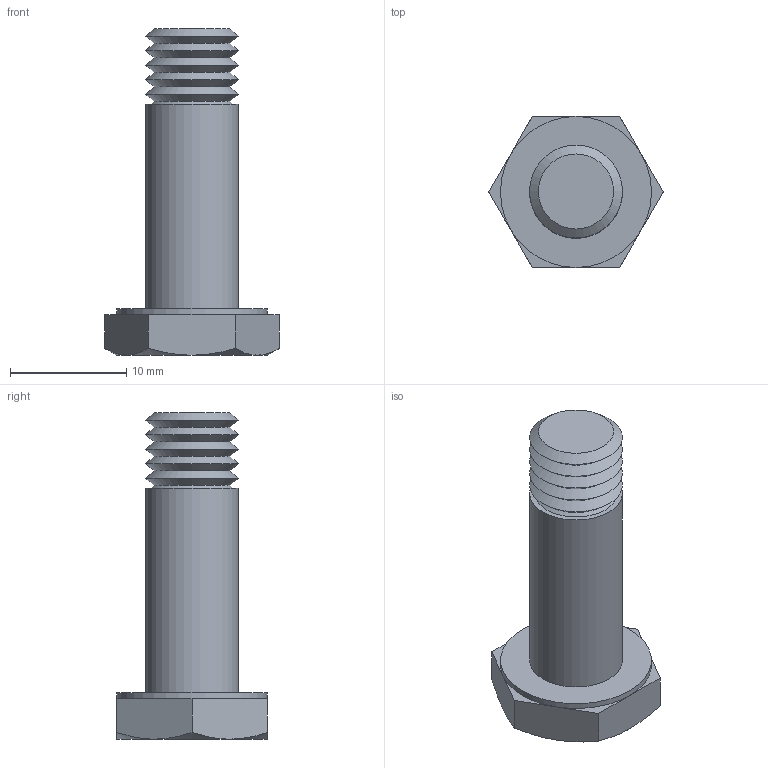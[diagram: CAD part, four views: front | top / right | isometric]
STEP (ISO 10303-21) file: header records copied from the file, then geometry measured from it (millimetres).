
FILE_DESCRIPTION((''),'2;1');
FILE_NAME('C:\Andys Backup Data\WEBSITE\DREAMWEAVER\MiniTec\Products\Linear System LR\CAD\Step\28.0240 SLIDE LR6 CONCENTRIC BUSHING.stp','2016-10-17T11:01:06',('amoles'),(''),'Autodesk Inventor 2012','Autodesk Inventor 2012','');
FILE_SCHEMA(('AUTOMOTIVE_DESIGN { 1 0 10303 214 1 1 1 1 }'));
Length unit declared in the file: millimetre
Products named in the file (1): 28.0240 SLIDE LR6 CONCENTRIC BUSHING
Bounding box: 15.01 x 13 x 28.1 mm (x, y, z)
Volume: 1727.7 mm3; surface area: 1132.9 mm2
Topology: 1 solids, 1 shells, 35 faces, 72 edges, 41 vertices
Faces by surface type: cone 17, plane 16, cylinder 2
Full cylindrical faces by diameter (mm): 8 x1, 13 x1
Entity records: 836 total; most frequent: CARTESIAN_POINT 156, DIRECTION 144, ORIENTED_EDGE 114, AXIS2_PLACEMENT_3D 63, EDGE_CURVE 57, EDGE_LOOP 50, VERTEX_POINT 39, FACE_OUTER_BOUND 35
